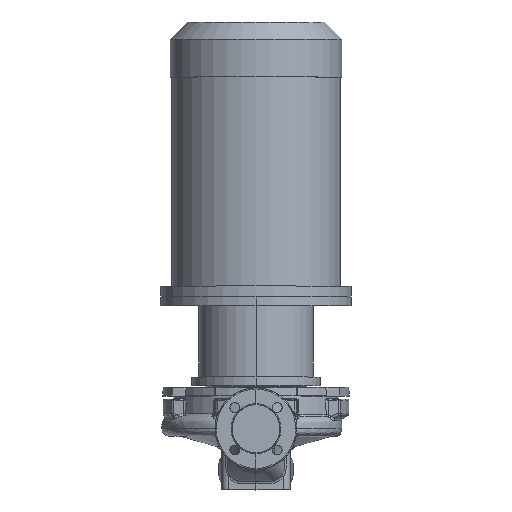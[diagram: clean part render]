
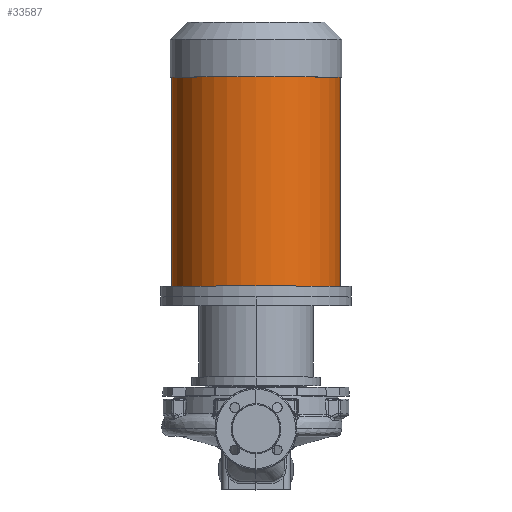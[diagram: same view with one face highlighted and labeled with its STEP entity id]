
A CAD part, top view. The second image highlights one B-rep face of the part: STEP entity #33587.
In plain terms, the highlighted cylindrical face has radius 154.5 mm (diameter 309 mm), a partial arc.
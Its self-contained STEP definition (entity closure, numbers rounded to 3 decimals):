
#270 = VERTEX_POINT ( 'NONE', #23329 ) ;
#2027 = LINE ( 'NONE', #13175, #17289 ) ;
#8269 = DIRECTION ( 'NONE',  ( 0., -1., 0. ) ) ;
#8738 = VERTEX_POINT ( 'NONE', #15789 ) ;
#11926 = EDGE_CURVE ( 'NONE', #47798, #41155, #2027, .T. ) ;
#12694 = CIRCLE ( 'NONE', #43535, 154.5 ) ;
#12806 = ORIENTED_EDGE ( 'NONE', *, *, #11926, .T. ) ;
#13175 = CARTESIAN_POINT ( 'NONE',  ( -154.5, 242.3, 0. ) ) ;
#13922 = DIRECTION ( 'NONE',  ( 0., -1., 0. ) ) ;
#14048 = ORIENTED_EDGE ( 'NONE', *, *, #43742, .T. ) ;
#15789 = CARTESIAN_POINT ( 'NONE',  ( 154.5, 262.3, 0. ) ) ;
#17289 = VECTOR ( 'NONE', #40598, 1000. ) ;
#17773 = DIRECTION ( 'NONE',  ( -1., 0., 0. ) ) ;
#17899 = DIRECTION ( 'NONE',  ( 0., -1., 0. ) ) ;
#18320 = ORIENTED_EDGE ( 'NONE', *, *, #51322, .F. ) ;
#19151 = DIRECTION ( 'NONE',  ( -1., 0., 0. ) ) ;
#21253 = EDGE_LOOP ( 'NONE', ( #48030, #14048, #12806, #18320 ) ) ;
#22692 = CARTESIAN_POINT ( 'NONE',  ( -154.5, 646.3, 0. ) ) ;
#22872 = EDGE_CURVE ( 'NONE', #270, #8738, #37639, .T. ) ;
#23329 = CARTESIAN_POINT ( 'NONE',  ( 154.5, 646.3, 0. ) ) ;
#24822 = DIRECTION ( 'NONE',  ( -1., 0., 0. ) ) ;
#28652 = DIRECTION ( 'NONE',  ( 0., -1., 0. ) ) ;
#29996 = CARTESIAN_POINT ( 'NONE',  ( 0., 262.3, 0. ) ) ;
#30491 = CARTESIAN_POINT ( 'NONE',  ( 0., 242.3, 0. ) ) ;
#33587 = ADVANCED_FACE ( 'NONE', ( #38429 ), #65482, .T. ) ;
#37639 = LINE ( 'NONE', #44583, #56292 ) ;
#38429 = FACE_OUTER_BOUND ( 'NONE', #21253, .T. ) ;
#39152 = CARTESIAN_POINT ( 'NONE',  ( -154.5, 262.3, 0. ) ) ;
#40598 = DIRECTION ( 'NONE',  ( 0., -1., 0. ) ) ;
#41155 = VERTEX_POINT ( 'NONE', #39152 ) ;
#43535 = AXIS2_PLACEMENT_3D ( 'NONE', #50113, #28652, #17773 ) ;
#43742 = EDGE_CURVE ( 'NONE', #270, #47798, #12694, .T. ) ;
#44583 = CARTESIAN_POINT ( 'NONE',  ( 154.5, 242.3, 0. ) ) ;
#47798 = VERTEX_POINT ( 'NONE', #22692 ) ;
#48030 = ORIENTED_EDGE ( 'NONE', *, *, #22872, .F. ) ;
#50113 = CARTESIAN_POINT ( 'NONE',  ( 0., 646.3, 0. ) ) ;
#51322 = EDGE_CURVE ( 'NONE', #8738, #41155, #62653, .T. ) ;
#52597 = AXIS2_PLACEMENT_3D ( 'NONE', #30491, #8269, #19151 ) ;
#56292 = VECTOR ( 'NONE', #17899, 1000. ) ;
#62653 = CIRCLE ( 'NONE', #63454, 154.5 ) ;
#63454 = AXIS2_PLACEMENT_3D ( 'NONE', #29996, #13922, #24822 ) ;
#65482 = CYLINDRICAL_SURFACE ( 'NONE', #52597, 154.5 ) ;
